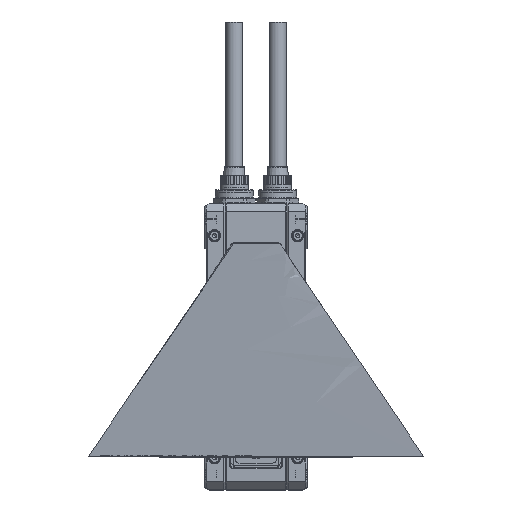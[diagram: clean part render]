
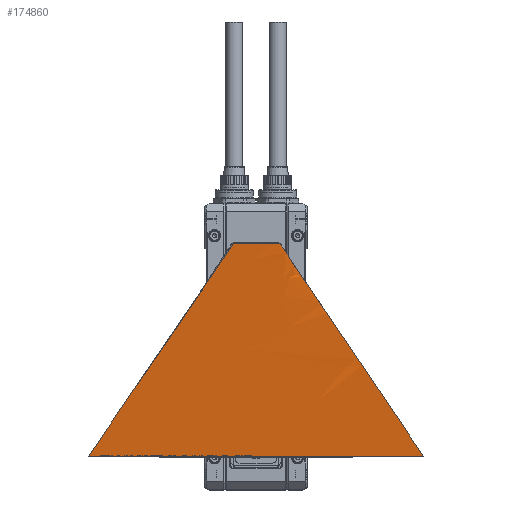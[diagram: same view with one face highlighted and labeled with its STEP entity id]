
A CAD part, top view. The second image highlights one B-rep face of the part: STEP entity #174860.
In plain terms, the highlighted free-form (B-spline) face has degree [3, 1] with [12, 2] control points.
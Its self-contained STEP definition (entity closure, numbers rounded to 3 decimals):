
#2307 = CARTESIAN_POINT ( 'NONE',  ( 8.688, 84., -275. ) ) ;
#4195 = FACE_OUTER_BOUND ( 'NONE', #299034, .T. ) ;
#6156 = CARTESIAN_POINT ( 'NONE',  ( 10., 82.688, -275. ) ) ;
#9855 = LINE ( 'NONE', #249630, #218396 ) ;
#11617 = CARTESIAN_POINT ( 'NONE',  ( -65.65, 0., 85. ) ) ;
#13107 = CARTESIAN_POINT ( 'NONE',  ( -8.5, 84., -275. ) ) ;
#27926 = CARTESIAN_POINT ( 'NONE',  ( 4.238, 84., -275. ) ) ;
#29444 = VERTEX_POINT ( 'NONE', #323761 ) ;
#30013 = ORIENTED_EDGE ( 'NONE', *, *, #375803, .F. ) ;
#33777 = CARTESIAN_POINT ( 'NONE',  ( 52.36, 0., 85. ) ) ;
#35806 = VECTOR ( 'NONE', #271597, 1000. ) ;
#46364 = CARTESIAN_POINT ( 'NONE',  ( 8.5, 82.5, -275. ) ) ;
#52781 = VECTOR ( 'NONE', #131591, 1000. ) ;
#53252 = ORIENTED_EDGE ( 'NONE', *, *, #174474, .T. ) ;
#56221 = EDGE_CURVE ( 'NONE', #68391, #310404, #9855, .T. ) ;
#61388 = CARTESIAN_POINT ( 'NONE',  ( -7.283, 0., 85. ) ) ;
#68391 = VERTEX_POINT ( 'NONE', #281301 ) ;
#69873 = LINE ( 'NONE', #342781, #224029 ) ;
#96719 = CARTESIAN_POINT ( 'NONE',  ( 7.075, 84., -275. ) ) ;
#98928 = ORIENTED_EDGE ( 'NONE', *, *, #372844, .T. ) ;
#103409 = DIRECTION ( 'NONE',  ( 1., 0., 0. ) ) ;
#124180 = CARTESIAN_POINT ( 'NONE',  ( 58.367, 0., 85. ) ) ;
#126149 = CARTESIAN_POINT ( 'NONE',  ( 10., 82.5, -275. ) ) ;
#131591 = DIRECTION ( 'NONE',  ( 1., 0., 0. ) ) ;
#140215 = CARTESIAN_POINT ( 'NONE',  ( -37.075, 42., -95. ) ) ;
#147817 = CARTESIAN_POINT ( 'NONE',  ( 54.812, 0., 85. ) ) ;
#151717 = CARTESIAN_POINT ( 'NONE',  ( -4.238, 84., -275. ) ) ;
#153669 = CARTESIAN_POINT ( 'NONE',  ( -36.562, 0., 85. ) ) ;
#163004 = LINE ( 'NONE', #11617, #52781 ) ;
#164717 = AXIS2_PLACEMENT_3D ( 'NONE', #46364, #227032, #103409 ) ;
#174474 = EDGE_CURVE ( 'NONE', #185573, #68391, #252500, .T. ) ;
#174860 = ADVANCED_FACE ( 'NONE', ( #4195 ), #364458, .T. ) ;
#179240 = CARTESIAN_POINT ( 'NONE',  ( -65.65, 0., 85. ) ) ;
#185573 = VERTEX_POINT ( 'NONE', #305579 ) ;
#186992 = CARTESIAN_POINT ( 'NONE',  ( -8.5, 84., -275. ) ) ;
#191599 = DIRECTION ( 'NONE',  ( -0.149, 0.221, -0.964 ) ) ;
#197019 = ORIENTED_EDGE ( 'NONE', *, *, #56221, .T. ) ;
#201277 = ORIENTED_EDGE ( 'NONE', *, *, #240165, .T. ) ;
#212602 = CARTESIAN_POINT ( 'NONE',  ( -55.985, 0., 85. ) ) ;
#213391 = VERTEX_POINT ( 'NONE', #221842 ) ;
#214561 = CARTESIAN_POINT ( 'NONE',  ( -7.075, 84., -275. ) ) ;
#218396 = VECTOR ( 'NONE', #220171, 1000. ) ;
#220171 = DIRECTION ( 'NONE',  ( -1., 0., 0. ) ) ;
#221842 = CARTESIAN_POINT ( 'NONE',  ( -65.65, 0., 85. ) ) ;
#224029 = VECTOR ( 'NONE', #191599, 1000. ) ;
#227032 = DIRECTION ( 'NONE',  ( 0., 0., 1. ) ) ;
#240165 = EDGE_CURVE ( 'NONE', #29444, #185573, #69873, .T. ) ;
#249630 = CARTESIAN_POINT ( 'NONE',  ( -8.5, 84., -275. ) ) ;
#252500 = CIRCLE ( 'NONE', #164717, 1.5 ) ;
#267633 = CARTESIAN_POINT ( 'NONE',  ( 9.59, 83.59, -275. ) ) ;
#269566 = CARTESIAN_POINT ( 'NONE',  ( 21.995, 0., 85. ) ) ;
#271487 = CARTESIAN_POINT ( 'NONE',  ( 41.418, 0., 85. ) ) ;
#271597 = DIRECTION ( 'NONE',  ( 0.153, 0.225, -0.962 ) ) ;
#273433 = CARTESIAN_POINT ( 'NONE',  ( 0., 84., -275. ) ) ;
#275366 = CARTESIAN_POINT ( 'NONE',  ( 9.928, 83.077, -275. ) ) ;
#281301 = CARTESIAN_POINT ( 'NONE',  ( 8.5, 84., -275. ) ) ;
#289466 = LINE ( 'NONE', #140215, #35806 ) ;
#299034 = EDGE_LOOP ( 'NONE', ( #98928, #201277, #53252, #197019, #30013 ) ) ;
#299057 = CARTESIAN_POINT ( 'NONE',  ( 65.65, 0., 85. ) ) ;
#305579 = CARTESIAN_POINT ( 'NONE',  ( 10., 82.5, -275. ) ) ;
#310404 = VERTEX_POINT ( 'NONE', #13107 ) ;
#323761 = CARTESIAN_POINT ( 'NONE',  ( 65.65, 0., 85. ) ) ;
#334292 = CARTESIAN_POINT ( 'NONE',  ( 9.077, 83.928, -275. ) ) ;
#342781 = CARTESIAN_POINT ( 'NONE',  ( 37.825, 41.25, -95. ) ) ;
#359804 = CARTESIAN_POINT ( 'NONE',  ( 64.373, 0., 85. ) ) ;
#364458 = B_SPLINE_SURFACE_WITH_KNOTS ( 'NONE', 3, 1, ( 
 ( #179240, #186992 ),
 ( #212602, #214561 ),
 ( #153669, #151717 ),
 ( #61388, #273433 ),
 ( #269566, #27926 ),
 ( #271487, #96719 ),
 ( #33777, #2307 ),
 ( #147817, #334292 ),
 ( #124180, #267633 ),
 ( #387264, #275366 ),
 ( #359804, #6156 ),
 ( #299057, #126149 ) ),
 .UNSPECIFIED., .F., .F., .F.,
 ( 4, 1, 1, 1, 2, 1, 1, 1, 4 ),
 ( 2, 2 ),
 ( 0., 0.221, 0.442, 0.662, 0.883, 0.912, 0.942, 0.971, 1. ),
 ( 0., 1. ),
 .UNSPECIFIED. ) ;
#372844 = EDGE_CURVE ( 'NONE', #213391, #29444, #163004, .T. ) ;
#375803 = EDGE_CURVE ( 'NONE', #213391, #310404, #289466, .T. ) ;
#387264 = CARTESIAN_POINT ( 'NONE',  ( 61.921, 0., 85. ) ) ;
